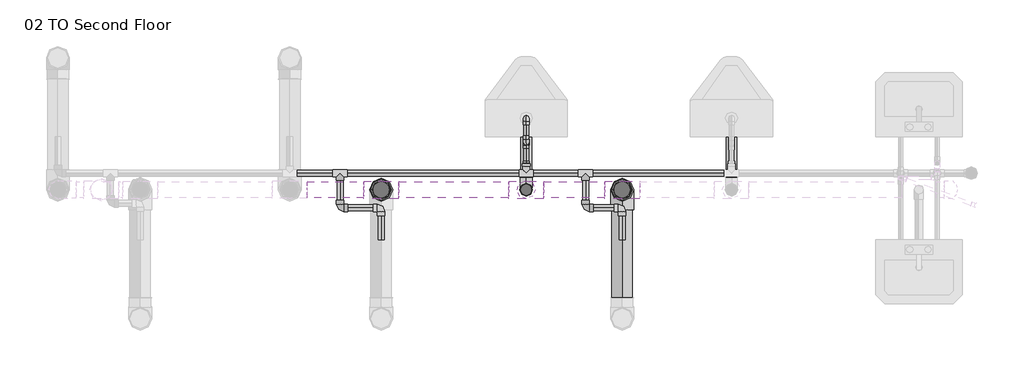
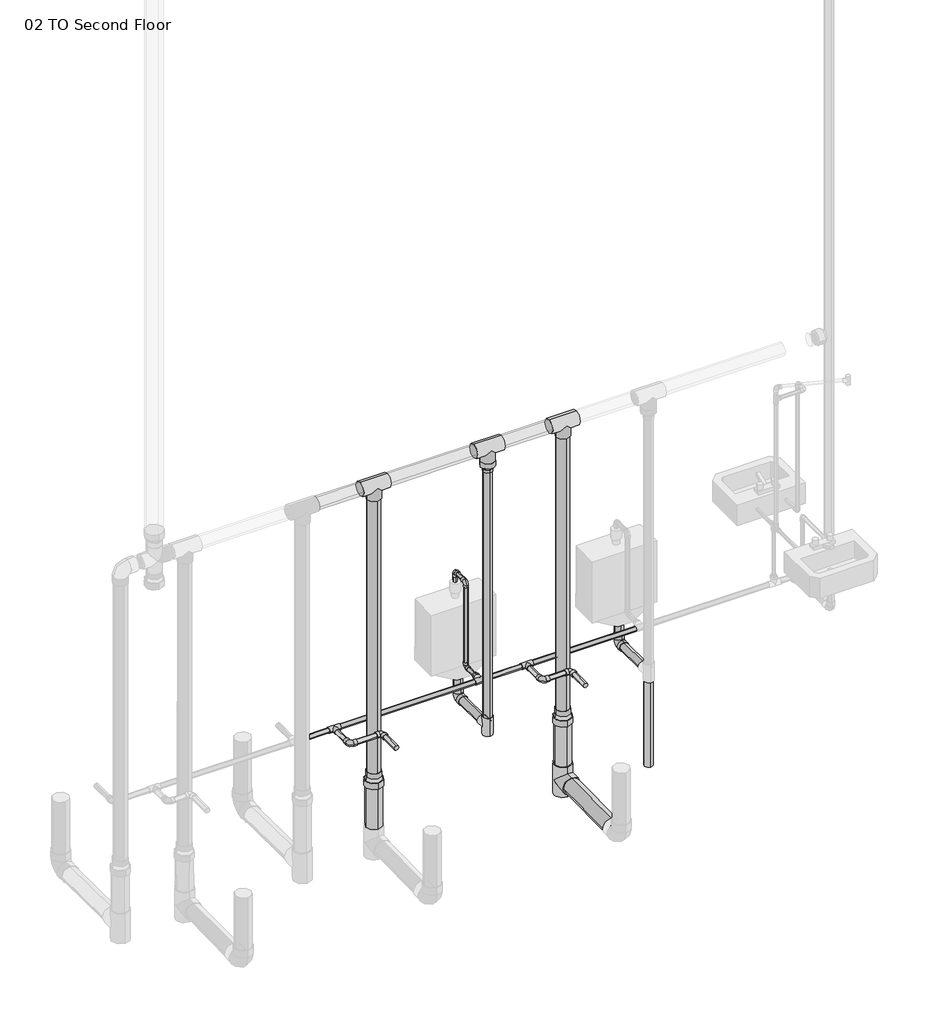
# One storey, part 2 of 3: 28 pipe segments, 21 pipe fittings.
"""IFC4 building model written with IfcOpenShell, lengths in millimetres."""

from ifc_helpers import new_model, si_unit, point, frame, frame_2d, origin, place, context, project, spatial, circle_curve, trimmed, segment, composite_curve, outline, extrude, transform, mapped, element, save
from components import elbow_pvc_sch_40_standard_39e3f0c3, elbow_pvc_sch_40_standard_517a5a8d, elbow_pvc_sch_40_standard_b266ab3f, reducer_pvc_sch_40_dwv_standard_464ee0c2, reducer_pvc_sch_40_dwv_standard_bc2808fd, reducer_pvc_sch_40_dwv_standard_0d64fc83, tee_pvc_sch_40_standard_9cddf13a, tee_pvc_sch_40_standard_b08d6211, tee_pvc_sch_40_standard_9261842d, tee_pvc_sch_40_standard_72b35c3b

model = new_model("IFC4")

# Units and contexts
model_context = context("Model", 3, world=origin())
ifc_project = project(units=[si_unit("LENGTHUNIT", "METRE", prefix="MILLI")], contexts=[model_context])

# Site, building, storey
site = spatial("IfcSite", under=ifc_project)
building = spatial("IfcBuilding", under=site)
storey = spatial("IfcBuildingStorey", under=building, Name="02 TO Second Floor", Elevation=4572.0)

# Pipe fittings
placement = place(None, origin())
elbow_pvc_sch_40_standard_shape = elbow_pvc_sch_40_standard_39e3f0c3(model_context)
element("IfcPipeFitting", 1, ObjectType="Elbow - PVC - Sch 40 : Standard", at=placement, inside=storey, context=model_context, shape_type="MappedRepresentation", body=[
    mapped(elbow_pvc_sch_40_standard_shape, transform((-14812.7542617, -4075.7109575, 4646.6125), x_axis=(0.0, 0.0, -1.0), y_axis=(0.0, -1.0, 0.0), z_axis=(-1.0, 0.0, 0.0))),
])
element("IfcPipeFitting", 2, ObjectType="Elbow - PVC - Sch 40 : Standard", at=placement, inside=storey, context=model_context, shape_type="MappedRepresentation", body=[
    mapped(elbow_pvc_sch_40_standard_shape, transform((-13669.7542617, -4075.7109575, 4649.7875), x_axis=(0.0, 0.0, -1.0), y_axis=(0.0, -1.0, 0.0), z_axis=(-1.0, 0.0, 0.0))),
])
elbow_pvc_sch_40_standard_2_shape = elbow_pvc_sch_40_standard_517a5a8d(model_context)
element("IfcPipeFitting", 3, ObjectType="Elbow - PVC - Sch 40 : Standard", at=placement, inside=storey, context=model_context, shape_type="MappedRepresentation", body=[
    mapped(elbow_pvc_sch_40_standard_2_shape, transform((-15620.0974824, -4541.2453325, 4927.6), x_axis=(0.0, 1.0, 0.0), y_axis=(-1.0, 0.0, 0.0), z_axis=(0.0, 0.0, 1.0))),
])
element("IfcPipeFitting", 4, ObjectType="Elbow - PVC - Sch 40 : Standard", at=placement, inside=storey, context=model_context, shape_type="MappedRepresentation", body=[
    mapped(elbow_pvc_sch_40_standard_2_shape, transform((-15848.6974824, -4541.2453325, 4927.6), x_axis=(0.0, -1.0, 0.0), y_axis=(1.0, 0.0, 0.0), z_axis=(0.0, 0.0, 1.0))),
])
element("IfcPipeFitting", 5, ObjectType="Elbow - PVC - Sch 40 : Standard", at=placement, inside=storey, context=model_context, shape_type="MappedRepresentation", body=[
    mapped(elbow_pvc_sch_40_standard_2_shape, transform((-14278.7262962, -4541.2453325, 4927.6), x_axis=(0.0, 1.0, 0.0), y_axis=(-1.0, 0.0, 0.0), z_axis=(0.0, 0.0, 1.0))),
])
element("IfcPipeFitting", 6, ObjectType="Elbow - PVC - Sch 40 : Standard", at=placement, inside=storey, context=model_context, shape_type="MappedRepresentation", body=[
    mapped(elbow_pvc_sch_40_standard_2_shape, transform((-14481.9262962, -4541.2453325, 4927.6), x_axis=(0.0, -1.0, 0.0), y_axis=(1.0, 0.0, 0.0), z_axis=(0.0, 0.0, 1.0))),
])
elbow_pvc_sch_40_standard_3_shape = elbow_pvc_sch_40_standard_b266ab3f(model_context)
element("IfcPipeFitting", 7, ObjectType="Elbow - PVC - Sch 40 : Standard", at=placement, inside=storey, context=model_context, shape_type="MappedRepresentation", body=[
    mapped(elbow_pvc_sch_40_standard_3_shape, transform((-14812.7542617, -4041.5797075, 5560.21875), x_axis=(0.0, 0.0, 1.0), y_axis=(0.0, -1.0, 0.0), z_axis=(1.0, 0.0, 0.0))),
])
element("IfcPipeFitting", 8, ObjectType="Elbow - PVC - Sch 40 : Standard", at=placement, inside=storey, context=model_context, shape_type="MappedRepresentation", body=[
    mapped(elbow_pvc_sch_40_standard_3_shape, transform((-14812.7542617, -4174.9297075, 5560.21875), x_axis=(0.0, -1.0, 0.0), y_axis=(0.0, 0.0, -1.0), z_axis=(1.0, 0.0, 0.0))),
])
element("IfcPipeFitting", 9, ObjectType="Elbow - PVC - Sch 40 : Standard", at=placement, inside=storey, context=model_context, shape_type="MappedRepresentation", body=[
    mapped(elbow_pvc_sch_40_standard_3_shape, transform((-14812.7542617, -4174.9297075, 4927.6), x_axis=(0.0, 0.0, -1.0), y_axis=(0.0, -1.0, 0.0), z_axis=(-1.0, 0.0, 0.0))),
])
reducer_pvc_sch_40_dwv_standard_shape = reducer_pvc_sch_40_dwv_standard_464ee0c2(model_context)
element("IfcPipeFitting", 10, ObjectType="Reducer - PVC - Sch 40 - DWV : Standard", at=placement, inside=storey, context=model_context, shape_type="MappedRepresentation", body=[
    mapped(reducer_pvc_sch_40_dwv_standard_shape, transform((-14812.7542617, -4439.7857603, 6638.925), x_axis=(0.0, 0.0, -1.0), y_axis=(1.0, 0.0, 0.0), z_axis=(0.0, -1.0, 0.0))),
])
reducer_pvc_sch_40_dwv_standard_2_shape = reducer_pvc_sch_40_dwv_standard_bc2808fd(model_context)
element("IfcPipeFitting", 11, ObjectType="Reducer - PVC - Sch 40 - DWV : Standard", at=placement, inside=storey, context=model_context, shape_type="MappedRepresentation", body=[
    mapped(reducer_pvc_sch_40_dwv_standard_2_shape, transform((-14278.7262962, -4439.7857603, 4593.7732164), x_axis=(0.0, 0.0, -1.0), y_axis=(-1.0, 0.0, 0.0), z_axis=(0.0, 1.0, 0.0))),
])
element("IfcPipeFitting", 12, ObjectType="Reducer - PVC - Sch 40 - DWV : Standard", at=placement, inside=storey, context=model_context, shape_type="MappedRepresentation", body=[
    mapped(reducer_pvc_sch_40_dwv_standard_2_shape, transform((-15620.0974824, -4439.7857603, 4593.7732164), x_axis=(0.0, 0.0, -1.0), y_axis=(-1.0, 0.0, 0.0), z_axis=(0.0, 1.0, 0.0))),
])
reducer_pvc_sch_40_dwv_standard_3_shape = reducer_pvc_sch_40_dwv_standard_0d64fc83(model_context)
element("IfcPipeFitting", 13, ObjectType="Reducer - PVC - Sch 40 - DWV : Standard", at=placement, inside=storey, context=model_context, shape_type="MappedRepresentation", body=[
    mapped(reducer_pvc_sch_40_dwv_standard_3_shape, transform((-14812.7542617, -4307.8701325, 4927.6), x_axis=(0.0, 1.0, 0.0), y_axis=(-1.0, 0.0, 0.0), z_axis=(0.0, 0.0, 1.0))),
])
tee_pvc_sch_40_standard_shape = tee_pvc_sch_40_standard_9cddf13a(model_context)
element("IfcPipeFitting", 14, ObjectType="Tee - PVC - Sch 40 : Standard", at=placement, inside=storey, context=model_context, shape_type="MappedRepresentation", body=[
    mapped(tee_pvc_sch_40_standard_shape, transform((-14278.7262962, -4439.7857603, 4071.4730164), x_axis=(0.0, 0.0, 1.0), y_axis=(0.0, 1.0, 0.0), z_axis=(-1.0, 0.0, 0.0))),
])
tee_pvc_sch_40_standard_2_shape = tee_pvc_sch_40_standard_b08d6211(model_context)
element("IfcPipeFitting", 15, ObjectType="Tee - PVC - Sch 40 : Standard", at=placement, inside=storey, context=model_context, shape_type="MappedRepresentation", body=[
    mapped(tee_pvc_sch_40_standard_2_shape, transform((-14812.7542617, -4439.7857603, 4650.4049459), x_axis=(0.0, 0.0, 1.0), y_axis=(0.0, -1.0, 0.0), z_axis=(1.0, 0.0, 0.0))),
])
tee_pvc_sch_40_standard_3_shape = tee_pvc_sch_40_standard_9261842d(model_context)
element("IfcPipeFitting", 16, ObjectType="Tee - PVC - Sch 40 : Standard", at=placement, inside=storey, context=model_context, shape_type="MappedRepresentation", body=[
    mapped(tee_pvc_sch_40_standard_3_shape, transform((-14278.7262962, -4439.7857603, 6735.7752), x_axis=(-1.0, 0.0, 0.0), y_axis=(0.0, 0.0, 1.0), z_axis=(0.0, 1.0, 0.0))),
])
element("IfcPipeFitting", 17, ObjectType="Tee - PVC - Sch 40 : Standard", at=placement, inside=storey, context=model_context, shape_type="MappedRepresentation", body=[
    mapped(tee_pvc_sch_40_standard_3_shape, transform((-14812.7542617, -4439.7857603, 6735.7752), x_axis=(-1.0, 0.0, 0.0), y_axis=(0.0, 0.0, 1.0), z_axis=(0.0, 1.0, 0.0))),
])
element("IfcPipeFitting", 18, ObjectType="Tee - PVC - Sch 40 : Standard", at=placement, inside=storey, context=model_context, shape_type="MappedRepresentation", body=[
    mapped(tee_pvc_sch_40_standard_3_shape, transform((-15620.0974824, -4439.7857603, 6735.7752), x_axis=(-1.0, 0.0, 0.0), y_axis=(0.0, 0.0, 1.0), z_axis=(0.0, 1.0, 0.0))),
])
tee_pvc_sch_40_standard_4_shape = tee_pvc_sch_40_standard_72b35c3b(model_context)
element("IfcPipeFitting", 19, ObjectType="Tee - PVC - Sch 40 : Standard", at=placement, inside=storey, context=model_context, shape_type="MappedRepresentation", body=[
    mapped(tee_pvc_sch_40_standard_4_shape, transform((-15848.6974824, -4347.5703325, 4927.6), x_axis=(-1.0, 0.0, 0.0), y_axis=(0.0, 1.0, 0.0), z_axis=(0.0, 0.0, -1.0))),
])
element("IfcPipeFitting", 20, ObjectType="Tee - PVC - Sch 40 : Standard", at=placement, inside=storey, context=model_context, shape_type="MappedRepresentation", body=[
    mapped(tee_pvc_sch_40_standard_4_shape, transform((-14481.9262962, -4347.5703325, 4927.6), x_axis=(-1.0, 0.0, 0.0), y_axis=(0.0, 1.0, 0.0), z_axis=(0.0, 0.0, -1.0))),
])
element("IfcPipeFitting", 21, ObjectType="Tee - PVC - Sch 40 : Standard", at=placement, inside=storey, context=model_context, shape_type="MappedRepresentation", body=[
    mapped(tee_pvc_sch_40_standard_4_shape, transform((-14812.7542617, -4347.5703325, 4927.6), x_axis=(-1.0, 0.0, 0.0), y_axis=(0.0, -1.0, 0.0), z_axis=(0.0, 0.0, 1.0))),
])

# Pipe segments
element("IfcPipeSegment", 22, ObjectType="Standard", at=placement, inside=storey, context=model_context, shape_type="SweptSolid", body=[
    extrude(outline(composite_curve([segment(trimmed(circle_curve(frame_2d((0.0, -57.15)), 57.15), [point((-57.15, -57.15))], [point((0.0, 0.0))], False, "CARTESIAN"), True, "CONTINUOUS"), segment(trimmed(circle_curve(frame_2d((0.0, -57.15)), 57.15), [point((0.0, 0.0))], [point((57.15, -57.15))], False, "CARTESIAN"), True, "CONTINUOUS"), segment(trimmed(circle_curve(frame_2d((0.0, -57.15)), 57.15), [point((57.15, -57.15))], [point((0.0, -114.3000001))], False, "CARTESIAN"), True, "CONTINUOUS"), segment(trimmed(circle_curve(frame_2d((0.0, -57.15)), 57.15), [point((0.0, -114.3000001))], [point((-57.15, -57.15))], False, "CARTESIAN"), True, "CONTINUOUS")], self_intersect=False)), frame((-14278.7262962, -5039.2392547, 4008.0756086), z_axis=(0.0, 0.999945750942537, 0.010416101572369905), x_axis=(1.0, 0.0, 0.0)), (0.0, 0.0, 1.0), 488.9563285),
])
element("IfcPipeSegment", 23, ObjectType="Standard", at=placement, inside=storey, context=model_context, shape_type="SweptSolid", body=[
    extrude(outline(composite_curve([segment(trimmed(circle_curve(frame_2d((-15620.0974824, -4439.7857603)), 57.15), [point((-15677.2474824, -4439.7857603))], [point((-15620.0974824, -4382.6357603))], False, "CARTESIAN"), True, "CONTINUOUS"), segment(trimmed(circle_curve(frame_2d((-15620.0974824, -4439.7857603)), 57.15), [point((-15620.0974824, -4382.6357603))], [point((-15562.9474824, -4439.7857603))], False, "CARTESIAN"), True, "CONTINUOUS"), segment(trimmed(circle_curve(frame_2d((-15620.0974824, -4439.7857603)), 57.15), [point((-15562.9474824, -4439.7857603))], [point((-15620.0974824, -4496.9357603))], False, "CARTESIAN"), True, "CONTINUOUS"), segment(trimmed(circle_curve(frame_2d((-15620.0974824, -4439.7857603)), 57.15), [point((-15620.0974824, -4496.9357603))], [point((-15677.2474824, -4439.7857603))], False, "CARTESIAN"), True, "CONTINUOUS")], self_intersect=False)), frame((0.0, 0.0, 4182.5980164), z_axis=(0.0, 0.0, 1.0), x_axis=(1.0, 0.0, 0.0)), (0.0, 0.0, 1.0), 304.8),
])
element("IfcPipeSegment", 24, ObjectType="Standard", at=placement, inside=storey, context=model_context, shape_type="SweptSolid", body=[
    extrude(outline(composite_curve([segment(trimmed(circle_curve(frame_2d((-14278.7262962, -4439.7857603)), 57.15), [point((-14335.8762962, -4439.7857603))], [point((-14278.7262962, -4382.6357603))], False, "CARTESIAN"), True, "CONTINUOUS"), segment(trimmed(circle_curve(frame_2d((-14278.7262962, -4439.7857603)), 57.15), [point((-14278.7262962, -4382.6357603))], [point((-14221.5762962, -4439.7857603))], False, "CARTESIAN"), True, "CONTINUOUS"), segment(trimmed(circle_curve(frame_2d((-14278.7262962, -4439.7857603)), 57.15), [point((-14221.5762962, -4439.7857603))], [point((-14278.7262962, -4496.9357603))], False, "CARTESIAN"), True, "CONTINUOUS"), segment(trimmed(circle_curve(frame_2d((-14278.7262962, -4439.7857603)), 57.15), [point((-14278.7262962, -4496.9357603))], [point((-14335.8762962, -4439.7857603))], False, "CARTESIAN"), True, "CONTINUOUS")], self_intersect=False)), frame((0.0, 0.0, 4182.5980164), z_axis=(0.0, 0.0, 1.0), x_axis=(1.0, 0.0, 0.0)), (0.0, 0.0, 1.0), 304.8),
])
element("IfcPipeSegment", 25, ObjectType="Standard", at=placement, inside=storey, context=model_context, shape_type="SweptSolid", body=[
    extrude(outline(composite_curve([segment(trimmed(circle_curve(frame_2d((-14812.7542617, -4075.7109575)), 30.1625), [point((-14782.5917617, -4075.7109575))], [point((-14812.7542617, -4105.8734575))], False, "CARTESIAN"), True, "CONTINUOUS"), segment(trimmed(circle_curve(frame_2d((-14812.7542617, -4075.7109575)), 30.1625), [point((-14812.7542617, -4105.8734575))], [point((-14842.9167617, -4075.7109575))], False, "CARTESIAN"), True, "CONTINUOUS"), segment(trimmed(circle_curve(frame_2d((-14812.7542617, -4075.7109575)), 30.1625), [point((-14842.9167617, -4075.7109575))], [point((-14812.7542617, -4045.5484575))], False, "CARTESIAN"), True, "CONTINUOUS"), segment(trimmed(circle_curve(frame_2d((-14812.7542617, -4075.7109575)), 30.1625), [point((-14812.7542617, -4045.5484575))], [point((-14782.5917617, -4075.7109575))], False, "CARTESIAN"), True, "CONTINUOUS")], self_intersect=False)), frame((0.0, 0.0, 4711.2720133), z_axis=(0.0, 0.0, 1.0), x_axis=(1.0, 0.0, 0.0)), (0.0, 0.0, 1.0), 109.9654867),
])
element("IfcPipeSegment", 26, ObjectType="Standard", at=placement, inside=storey, context=model_context, shape_type="SweptSolid", body=[
    extrude(outline(composite_curve([segment(trimmed(circle_curve(frame_2d((0.0, 30.1625001)), 30.1625), [point((-30.1625, 30.1625001))], [point((0.0, 60.3250001))], False, "CARTESIAN"), True, "CONTINUOUS"), segment(trimmed(circle_curve(frame_2d((0.0, 30.1625001)), 30.1625), [point((0.0, 60.3250001))], [point((30.1625, 30.1625001))], False, "CARTESIAN"), True, "CONTINUOUS"), segment(trimmed(circle_curve(frame_2d((0.0, 30.1625001)), 30.1625), [point((30.1625, 30.1625001))], [point((0.0, 0.0))], False, "CARTESIAN"), True, "CONTINUOUS"), segment(trimmed(circle_curve(frame_2d((0.0, 30.1625001)), 30.1625), [point((0.0, 0.0))], [point((-30.1625, 30.1625001))], False, "CARTESIAN"), True, "CONTINUOUS")], self_intersect=False)), frame((-14812.7542617, -4140.6811388, 4617.1251363), z_axis=(0.0, -0.9999457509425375, 0.010416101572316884), x_axis=(1.0, 0.0, 0.0)), (0.0, 0.0, 1.0), 232.7600412),
])
element("IfcPipeSegment", 27, ObjectType="Standard", at=placement, inside=storey, context=model_context, shape_type="SweptSolid", body=[
    extrude(outline(composite_curve([segment(trimmed(circle_curve(frame_2d((-13669.7542617, -4075.7109575)), 30.1625), [point((-13639.5917617, -4075.7109575))], [point((-13669.7542617, -4105.8734575))], False, "CARTESIAN"), True, "CONTINUOUS"), segment(trimmed(circle_curve(frame_2d((-13669.7542617, -4075.7109575)), 30.1625), [point((-13669.7542617, -4105.8734575))], [point((-13699.9167617, -4075.7109575))], False, "CARTESIAN"), True, "CONTINUOUS"), segment(trimmed(circle_curve(frame_2d((-13669.7542617, -4075.7109575)), 30.1625), [point((-13699.9167617, -4075.7109575))], [point((-13669.7542617, -4045.5484575))], False, "CARTESIAN"), True, "CONTINUOUS"), segment(trimmed(circle_curve(frame_2d((-13669.7542617, -4075.7109575)), 30.1625), [point((-13669.7542617, -4045.5484575))], [point((-13639.5917617, -4075.7109575))], False, "CARTESIAN"), True, "CONTINUOUS")], self_intersect=False)), frame((0.0, 0.0, 4714.4470133), z_axis=(0.0, 0.0, 1.0), x_axis=(1.0, 0.0, 0.0)), (0.0, 0.0, 1.0), 106.7904867),
])
element("IfcPipeSegment", 28, ObjectType="Standard", at=placement, inside=storey, context=model_context, shape_type="SweptSolid", body=[
    extrude(outline(composite_curve([segment(trimmed(circle_curve(frame_2d((0.0, 30.1625001)), 30.1625), [point((-30.1625, 30.1625001))], [point((0.0, 60.3250001))], False, "CARTESIAN"), True, "CONTINUOUS"), segment(trimmed(circle_curve(frame_2d((0.0, 30.1625001)), 30.1625), [point((0.0, 60.3250001))], [point((30.1625, 30.1625001))], False, "CARTESIAN"), True, "CONTINUOUS"), segment(trimmed(circle_curve(frame_2d((0.0, 30.1625001)), 30.1625), [point((30.1625, 30.1625001))], [point((0.0, 0.0))], False, "CARTESIAN"), True, "CONTINUOUS"), segment(trimmed(circle_curve(frame_2d((0.0, 30.1625001)), 30.1625), [point((0.0, 0.0))], [point((-30.1625, 30.1625001))], False, "CARTESIAN"), True, "CONTINUOUS")], self_intersect=False)), frame((-13669.7542617, -4140.6811388, 4620.3001363), z_axis=(0.0, -0.9999457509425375, 0.010416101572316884), x_axis=(1.0, 0.0, 0.0)), (0.0, 0.0, 1.0), 232.7600412),
])
element("IfcPipeSegment", 29, ObjectType="Standard", at=placement, inside=storey, context=model_context, shape_type="SweptSolid", body=[
    extrude(outline(composite_curve([segment(trimmed(circle_curve(frame_2d((-13669.7542617, -4439.7857603)), 30.1625), [point((-13699.9167617, -4439.7857603))], [point((-13669.7542617, -4409.6232603))], False, "CARTESIAN"), True, "CONTINUOUS"), segment(trimmed(circle_curve(frame_2d((-13669.7542617, -4439.7857603)), 30.1625), [point((-13669.7542617, -4409.6232603))], [point((-13639.5917617, -4439.7857603))], False, "CARTESIAN"), True, "CONTINUOUS"), segment(trimmed(circle_curve(frame_2d((-13669.7542617, -4439.7857603)), 30.1625), [point((-13639.5917617, -4439.7857603))], [point((-13669.7542617, -4469.9482603))], False, "CARTESIAN"), True, "CONTINUOUS"), segment(trimmed(circle_curve(frame_2d((-13669.7542617, -4439.7857603)), 30.1625), [point((-13669.7542617, -4469.9482603))], [point((-13699.9167617, -4439.7857603))], False, "CARTESIAN"), True, "CONTINUOUS")], self_intersect=False)), frame((0.0, 0.0, 3949.4306513), z_axis=(0.0, 0.0, 1.0), x_axis=(1.0, 0.0, 0.0)), (0.0, 0.0, 1.0), 637.4742946),
])
element("IfcPipeSegment", 30, ObjectType="Standard", at=placement, inside=storey, context=model_context, shape_type="SweptSolid", body=[
    extrude(outline(composite_curve([segment(trimmed(circle_curve(frame_2d((-14812.7542617, -4439.7857603)), 30.1625), [point((-14782.5917617, -4439.7857603))], [point((-14812.7542617, -4469.9482603))], False, "CARTESIAN"), True, "CONTINUOUS"), segment(trimmed(circle_curve(frame_2d((-14812.7542617, -4439.7857603)), 30.1625), [point((-14812.7542617, -4469.9482603))], [point((-14842.9167617, -4439.7857603))], False, "CARTESIAN"), True, "CONTINUOUS"), segment(trimmed(circle_curve(frame_2d((-14812.7542617, -4439.7857603)), 30.1625), [point((-14842.9167617, -4439.7857603))], [point((-14812.7542617, -4409.6232603))], False, "CARTESIAN"), True, "CONTINUOUS"), segment(trimmed(circle_curve(frame_2d((-14812.7542617, -4439.7857603)), 30.1625), [point((-14812.7542617, -4409.6232603))], [point((-14782.5917617, -4439.7857603))], False, "CARTESIAN"), True, "CONTINUOUS")], self_intersect=False)), frame((0.0, 0.0, 4717.0799459), z_axis=(0.0, 0.0, 1.0), x_axis=(1.0, 0.0, 0.0)), (0.0, 0.0, 1.0), 1842.4700541),
])
element("IfcPipeSegment", 31, ObjectType="Standard", at=placement, inside=storey, context=model_context, shape_type="SweptSolid", body=[
    extrude(outline(composite_curve([segment(trimmed(circle_curve(frame_2d((-15620.0974824, -4439.7857603)), 44.45), [point((-15575.6474824, -4439.7857603))], [point((-15620.0974824, -4484.2357603))], False, "CARTESIAN"), True, "CONTINUOUS"), segment(trimmed(circle_curve(frame_2d((-15620.0974824, -4439.7857603)), 44.45), [point((-15620.0974824, -4484.2357603))], [point((-15664.5474824, -4439.7857603))], False, "CARTESIAN"), True, "CONTINUOUS"), segment(trimmed(circle_curve(frame_2d((-15620.0974824, -4439.7857603)), 44.45), [point((-15664.5474824, -4439.7857603))], [point((-15620.0974824, -4395.3357603))], False, "CARTESIAN"), True, "CONTINUOUS"), segment(trimmed(circle_curve(frame_2d((-15620.0974824, -4439.7857603)), 44.45), [point((-15620.0974824, -4395.3357603))], [point((-15575.6474824, -4439.7857603))], False, "CARTESIAN"), True, "CONTINUOUS")], self_intersect=False)), frame((0.0, 0.0, 4593.7732164), z_axis=(0.0, 0.0, 1.0), x_axis=(1.0, 0.0, 0.0)), (0.0, 0.0, 1.0), 2045.1517836),
])
element("IfcPipeSegment", 32, ObjectType="Standard", at=placement, inside=storey, context=model_context, shape_type="SweptSolid", body=[
    extrude(outline(composite_curve([segment(trimmed(circle_curve(frame_2d((-14278.7262962, -4439.7857603)), 44.45), [point((-14234.2762962, -4439.7857603))], [point((-14278.7262962, -4484.2357603))], False, "CARTESIAN"), True, "CONTINUOUS"), segment(trimmed(circle_curve(frame_2d((-14278.7262962, -4439.7857603)), 44.45), [point((-14278.7262962, -4484.2357603))], [point((-14323.1762962, -4439.7857603))], False, "CARTESIAN"), True, "CONTINUOUS"), segment(trimmed(circle_curve(frame_2d((-14278.7262962, -4439.7857603)), 44.45), [point((-14323.1762962, -4439.7857603))], [point((-14278.7262962, -4395.3357603))], False, "CARTESIAN"), True, "CONTINUOUS"), segment(trimmed(circle_curve(frame_2d((-14278.7262962, -4439.7857603)), 44.45), [point((-14278.7262962, -4395.3357603))], [point((-14234.2762962, -4439.7857603))], False, "CARTESIAN"), True, "CONTINUOUS")], self_intersect=False)), frame((0.0, 0.0, 4593.7732164), z_axis=(0.0, 0.0, 1.0), x_axis=(1.0, 0.0, 0.0)), (0.0, 0.0, 1.0), 2045.1517836),
])
element("IfcPipeSegment", 33, ObjectType="Standard", at=placement, inside=storey, context=model_context, shape_type="SweptSolid", body=[
    extrude(outline(composite_curve([segment(trimmed(circle_curve(frame_2d((-4439.7857603, 6735.7752)), 44.45), [point((-4484.2357603, 6735.7752))], [point((-4439.7857603, 6780.2252))], False, "CARTESIAN"), True, "CONTINUOUS"), segment(trimmed(circle_curve(frame_2d((-4439.7857603, 6735.7752)), 44.45), [point((-4439.7857603, 6780.2252))], [point((-4395.3357603, 6735.7752))], False, "CARTESIAN"), True, "CONTINUOUS"), segment(trimmed(circle_curve(frame_2d((-4439.7857603, 6735.7752)), 44.45), [point((-4395.3357603, 6735.7752))], [point((-4439.7857603, 6691.3252))], False, "CARTESIAN"), True, "CONTINUOUS"), segment(trimmed(circle_curve(frame_2d((-4439.7857603, 6735.7752)), 44.45), [point((-4439.7857603, 6691.3252))], [point((-4484.2357603, 6735.7752))], False, "CARTESIAN"), True, "CONTINUOUS")], self_intersect=False)), frame((-15523.2472824, 0.0, 0.0), z_axis=(1.0, 0.0, 0.0), x_axis=(0.0, 1.0, 0.0)), (0.0, 0.0, 1.0), 613.6428207),
])
element("IfcPipeSegment", 34, ObjectType="Standard", at=placement, inside=storey, context=model_context, shape_type="SweptSolid", body=[
    extrude(outline(composite_curve([segment(trimmed(circle_curve(frame_2d((-4439.7857603, 6735.7752)), 44.45), [point((-4484.2357603, 6735.7752))], [point((-4439.7857603, 6780.2252))], False, "CARTESIAN"), True, "CONTINUOUS"), segment(trimmed(circle_curve(frame_2d((-4439.7857603, 6735.7752)), 44.45), [point((-4439.7857603, 6780.2252))], [point((-4395.3357603, 6735.7752))], False, "CARTESIAN"), True, "CONTINUOUS"), segment(trimmed(circle_curve(frame_2d((-4439.7857603, 6735.7752)), 44.45), [point((-4395.3357603, 6735.7752))], [point((-4439.7857603, 6691.3252))], False, "CARTESIAN"), True, "CONTINUOUS"), segment(trimmed(circle_curve(frame_2d((-4439.7857603, 6735.7752)), 44.45), [point((-4439.7857603, 6691.3252))], [point((-4484.2357603, 6735.7752))], False, "CARTESIAN"), True, "CONTINUOUS")], self_intersect=False)), frame((-14715.9040617, 0.0, 0.0), z_axis=(1.0, 0.0, 0.0), x_axis=(0.0, 1.0, 0.0)), (0.0, 0.0, 1.0), 340.3275655),
])
element("IfcPipeSegment", 35, ObjectType="Standard", at=placement, inside=storey, context=model_context, shape_type="SweptSolid", body=[
    extrude(outline(composite_curve([segment(trimmed(circle_curve(frame_2d((-4439.7857603, 6735.7752)), 44.45), [point((-4395.3357603, 6735.7752))], [point((-4439.7857603, 6691.3252))], False, "CARTESIAN"), True, "CONTINUOUS"), segment(trimmed(circle_curve(frame_2d((-4439.7857603, 6735.7752)), 44.45), [point((-4439.7857603, 6691.3252))], [point((-4484.2357603, 6735.7752))], False, "CARTESIAN"), True, "CONTINUOUS"), segment(trimmed(circle_curve(frame_2d((-4439.7857603, 6735.7752)), 44.45), [point((-4484.2357603, 6735.7752))], [point((-4439.7857603, 6780.2252))], False, "CARTESIAN"), True, "CONTINUOUS"), segment(trimmed(circle_curve(frame_2d((-4439.7857603, 6735.7752)), 44.45), [point((-4439.7857603, 6780.2252))], [point((-4395.3357603, 6735.7752))], False, "CARTESIAN"), True, "CONTINUOUS")], self_intersect=False)), frame((-16031.2472824, 0.0, 0.0), z_axis=(1.0, 0.0, 0.0), x_axis=(0.0, 1.0, 0.0)), (0.0, 0.0, 1.0), 314.2996),
])
element("IfcPipeSegment", 36, ObjectType="Standard", at=placement, inside=storey, context=model_context, shape_type="SweptSolid", body=[
    extrude(outline(composite_curve([segment(trimmed(circle_curve(frame_2d((4927.6, -15620.0974824)), 16.66875), [point((4927.6, -15603.4287324))], [point((4944.26875, -15620.0974824))], False, "CARTESIAN"), True, "CONTINUOUS"), segment(trimmed(circle_curve(frame_2d((4927.6, -15620.0974824)), 16.66875), [point((4944.26875, -15620.0974824))], [point((4927.6, -15636.7662324))], False, "CARTESIAN"), True, "CONTINUOUS"), segment(trimmed(circle_curve(frame_2d((4927.6, -15620.0974824)), 16.66875), [point((4927.6, -15636.7662324))], [point((4910.93125, -15620.0974824))], False, "CARTESIAN"), True, "CONTINUOUS"), segment(trimmed(circle_curve(frame_2d((4927.6, -15620.0974824)), 16.66875), [point((4910.93125, -15620.0974824))], [point((4927.6, -15603.4287324))], False, "CARTESIAN"), True, "CONTINUOUS")], self_intersect=False)), frame((0.0, -4719.0453325, 0.0), z_axis=(0.0, 1.0, 0.0), x_axis=(0.0, 0.0, 1.0)), (0.0, 0.0, 1.0), 134.53745),
])
element("IfcPipeSegment", 37, ObjectType="Standard", at=placement, inside=storey, context=model_context, shape_type="SweptSolid", body=[
    extrude(outline(composite_curve([segment(trimmed(circle_curve(frame_2d((-4541.2453325, 4927.6)), 16.66875), [point((-4524.5765825, 4927.6))], [point((-4541.2453325, 4910.93125))], False, "CARTESIAN"), True, "CONTINUOUS"), segment(trimmed(circle_curve(frame_2d((-4541.2453325, 4927.6)), 16.66875), [point((-4541.2453325, 4910.93125))], [point((-4557.9140825, 4927.6))], False, "CARTESIAN"), True, "CONTINUOUS"), segment(trimmed(circle_curve(frame_2d((-4541.2453325, 4927.6)), 16.66875), [point((-4557.9140825, 4927.6))], [point((-4541.2453325, 4944.26875))], False, "CARTESIAN"), True, "CONTINUOUS"), segment(trimmed(circle_curve(frame_2d((-4541.2453325, 4927.6)), 16.66875), [point((-4541.2453325, 4944.26875))], [point((-4524.5765825, 4927.6))], False, "CARTESIAN"), True, "CONTINUOUS")], self_intersect=False)), frame((-15805.4349324, 0.0, 0.0), z_axis=(1.0, 0.0, 0.0), x_axis=(0.0, 1.0, 0.0)), (0.0, 0.0, 1.0), 142.0749),
])
element("IfcPipeSegment", 38, ObjectType="Standard", at=placement, inside=storey, context=model_context, shape_type="SweptSolid", body=[
    extrude(outline(composite_curve([segment(trimmed(circle_curve(frame_2d((4927.6, -15848.6974824)), 16.66875), [point((4927.6, -15832.0287324))], [point((4944.26875, -15848.6974824))], False, "CARTESIAN"), True, "CONTINUOUS"), segment(trimmed(circle_curve(frame_2d((4927.6, -15848.6974824)), 16.66875), [point((4944.26875, -15848.6974824))], [point((4927.6, -15865.3662324))], False, "CARTESIAN"), True, "CONTINUOUS"), segment(trimmed(circle_curve(frame_2d((4927.6, -15848.6974824)), 16.66875), [point((4927.6, -15865.3662324))], [point((4910.93125, -15848.6974824))], False, "CARTESIAN"), True, "CONTINUOUS"), segment(trimmed(circle_curve(frame_2d((4927.6, -15848.6974824)), 16.66875), [point((4910.93125, -15848.6974824))], [point((4927.6, -15832.0287324))], False, "CARTESIAN"), True, "CONTINUOUS")], self_intersect=False)), frame((0.0, -4497.9827825, 0.0), z_axis=(0.0, 1.0, 0.0), x_axis=(0.0, 0.0, 1.0)), (0.0, 0.0, 1.0), 110.71225),
])
element("IfcPipeSegment", 39, ObjectType="Standard", at=placement, inside=storey, context=model_context, shape_type="SweptSolid", body=[
    extrude(outline(composite_curve([segment(trimmed(circle_curve(frame_2d((-4347.5703325, 4927.6)), 16.66875), [point((-4364.2390825, 4927.6))], [point((-4347.5703325, 4944.26875))], False, "CARTESIAN"), True, "CONTINUOUS"), segment(trimmed(circle_curve(frame_2d((-4347.5703325, 4927.6)), 16.66875), [point((-4347.5703325, 4944.26875))], [point((-4330.9015825, 4927.6))], False, "CARTESIAN"), True, "CONTINUOUS"), segment(trimmed(circle_curve(frame_2d((-4347.5703325, 4927.6)), 16.66875), [point((-4330.9015825, 4927.6))], [point((-4347.5703325, 4910.93125))], False, "CARTESIAN"), True, "CONTINUOUS"), segment(trimmed(circle_curve(frame_2d((-4347.5703325, 4927.6)), 16.66875), [point((-4347.5703325, 4910.93125))], [point((-4364.2390825, 4927.6))], False, "CARTESIAN"), True, "CONTINUOUS")], self_intersect=False)), frame((-16088.3972824, 0.0, 0.0), z_axis=(1.0, 0.0, 0.0), x_axis=(0.0, 1.0, 0.0)), (0.0, 0.0, 1.0), 199.9996),
])
element("IfcPipeSegment", 40, ObjectType="Standard", at=placement, inside=storey, context=model_context, shape_type="SweptSolid", body=[
    extrude(outline(composite_curve([segment(trimmed(circle_curve(frame_2d((4927.6, -14278.7262962)), 16.66875), [point((4927.6, -14262.0575462))], [point((4944.26875, -14278.7262962))], False, "CARTESIAN"), True, "CONTINUOUS"), segment(trimmed(circle_curve(frame_2d((4927.6, -14278.7262962)), 16.66875), [point((4944.26875, -14278.7262962))], [point((4927.6, -14295.3950462))], False, "CARTESIAN"), True, "CONTINUOUS"), segment(trimmed(circle_curve(frame_2d((4927.6, -14278.7262962)), 16.66875), [point((4927.6, -14295.3950462))], [point((4910.93125, -14278.7262962))], False, "CARTESIAN"), True, "CONTINUOUS"), segment(trimmed(circle_curve(frame_2d((4927.6, -14278.7262962)), 16.66875), [point((4910.93125, -14278.7262962))], [point((4927.6, -14262.0575462))], False, "CARTESIAN"), True, "CONTINUOUS")], self_intersect=False)), frame((0.0, -4719.0453325, 0.0), z_axis=(0.0, 1.0, 0.0), x_axis=(0.0, 0.0, 1.0)), (0.0, 0.0, 1.0), 134.53745),
])
element("IfcPipeSegment", 41, ObjectType="Standard", at=placement, inside=storey, context=model_context, shape_type="SweptSolid", body=[
    extrude(outline(composite_curve([segment(trimmed(circle_curve(frame_2d((-4541.2453325, 4927.6)), 16.66875), [point((-4524.5765825, 4927.6))], [point((-4541.2453325, 4910.93125))], False, "CARTESIAN"), True, "CONTINUOUS"), segment(trimmed(circle_curve(frame_2d((-4541.2453325, 4927.6)), 16.66875), [point((-4541.2453325, 4910.93125))], [point((-4557.9140825, 4927.6))], False, "CARTESIAN"), True, "CONTINUOUS"), segment(trimmed(circle_curve(frame_2d((-4541.2453325, 4927.6)), 16.66875), [point((-4557.9140825, 4927.6))], [point((-4541.2453325, 4944.26875))], False, "CARTESIAN"), True, "CONTINUOUS"), segment(trimmed(circle_curve(frame_2d((-4541.2453325, 4927.6)), 16.66875), [point((-4541.2453325, 4944.26875))], [point((-4524.5765825, 4927.6))], False, "CARTESIAN"), True, "CONTINUOUS")], self_intersect=False)), frame((-14438.6637462, 0.0, 0.0), z_axis=(1.0, 0.0, 0.0), x_axis=(0.0, 1.0, 0.0)), (0.0, 0.0, 1.0), 116.6749),
])
element("IfcPipeSegment", 42, ObjectType="Standard", at=placement, inside=storey, context=model_context, shape_type="SweptSolid", body=[
    extrude(outline(composite_curve([segment(trimmed(circle_curve(frame_2d((4927.6, -14481.9262962)), 16.66875), [point((4927.6, -14465.2575462))], [point((4944.26875, -14481.9262962))], False, "CARTESIAN"), True, "CONTINUOUS"), segment(trimmed(circle_curve(frame_2d((4927.6, -14481.9262962)), 16.66875), [point((4944.26875, -14481.9262962))], [point((4927.6, -14498.5950462))], False, "CARTESIAN"), True, "CONTINUOUS"), segment(trimmed(circle_curve(frame_2d((4927.6, -14481.9262962)), 16.66875), [point((4927.6, -14498.5950462))], [point((4910.93125, -14481.9262962))], False, "CARTESIAN"), True, "CONTINUOUS"), segment(trimmed(circle_curve(frame_2d((4927.6, -14481.9262962)), 16.66875), [point((4910.93125, -14481.9262962))], [point((4927.6, -14465.2575462))], False, "CARTESIAN"), True, "CONTINUOUS")], self_intersect=False)), frame((0.0, -4497.9827825, 0.0), z_axis=(0.0, 1.0, 0.0), x_axis=(0.0, 0.0, 1.0)), (0.0, 0.0, 1.0), 110.71225),
])
element("IfcPipeSegment", 43, ObjectType="Standard", at=placement, inside=storey, context=model_context, shape_type="SweptSolid", body=[
    extrude(outline(composite_curve([segment(trimmed(circle_curve(frame_2d((-14812.7542617, -4041.5797075)), 13.49375), [point((-14826.2480117, -4041.5797075))], [point((-14812.7542617, -4028.0859575))], False, "CARTESIAN"), True, "CONTINUOUS"), segment(trimmed(circle_curve(frame_2d((-14812.7542617, -4041.5797075)), 13.49375), [point((-14812.7542617, -4028.0859575))], [point((-14799.2605117, -4041.5797075))], False, "CARTESIAN"), True, "CONTINUOUS"), segment(trimmed(circle_curve(frame_2d((-14812.7542617, -4041.5797075)), 13.49375), [point((-14799.2605117, -4041.5797075))], [point((-14812.7542617, -4055.0734575))], False, "CARTESIAN"), True, "CONTINUOUS"), segment(trimmed(circle_curve(frame_2d((-14812.7542617, -4041.5797075)), 13.49375), [point((-14812.7542617, -4055.0734575))], [point((-14826.2480117, -4041.5797075))], False, "CARTESIAN"), True, "CONTINUOUS")], self_intersect=False)), frame((0.0, 0.0, 5484.01875), z_axis=(0.0, 0.0, 1.0), x_axis=(1.0, 0.0, 0.0)), (0.0, 0.0, 1.0), 40.87495),
])
element("IfcPipeSegment", 44, ObjectType="Standard", at=placement, inside=storey, context=model_context, shape_type="SweptSolid", body=[
    extrude(outline(composite_curve([segment(trimmed(circle_curve(frame_2d((5560.21875, -14812.7542617)), 13.49375), [point((5560.21875, -14826.2480117))], [point((5546.725, -14812.7542617))], False, "CARTESIAN"), True, "CONTINUOUS"), segment(trimmed(circle_curve(frame_2d((5560.21875, -14812.7542617)), 13.49375), [point((5546.725, -14812.7542617))], [point((5560.21875, -14799.2605117))], False, "CARTESIAN"), True, "CONTINUOUS"), segment(trimmed(circle_curve(frame_2d((5560.21875, -14812.7542617)), 13.49375), [point((5560.21875, -14799.2605117))], [point((5573.7125, -14812.7542617))], False, "CARTESIAN"), True, "CONTINUOUS"), segment(trimmed(circle_curve(frame_2d((5560.21875, -14812.7542617)), 13.49375), [point((5573.7125, -14812.7542617))], [point((5560.21875, -14826.2480117))], False, "CARTESIAN"), True, "CONTINUOUS")], self_intersect=False)), frame((0.0, -4139.6046575, 0.0), z_axis=(0.0, 1.0, 0.0), x_axis=(0.0, 0.0, 1.0)), (0.0, 0.0, 1.0), 62.6999),
])
element("IfcPipeSegment", 45, ObjectType="Standard", at=placement, inside=storey, context=model_context, shape_type="SweptSolid", body=[
    extrude(outline(composite_curve([segment(trimmed(circle_curve(frame_2d((-14812.7542617, -4174.9297075)), 13.49375), [point((-14799.2605117, -4174.9297075))], [point((-14812.7542617, -4188.4234575))], False, "CARTESIAN"), True, "CONTINUOUS"), segment(trimmed(circle_curve(frame_2d((-14812.7542617, -4174.9297075)), 13.49375), [point((-14812.7542617, -4188.4234575))], [point((-14826.2480117, -4174.9297075))], False, "CARTESIAN"), True, "CONTINUOUS"), segment(trimmed(circle_curve(frame_2d((-14812.7542617, -4174.9297075)), 13.49375), [point((-14826.2480117, -4174.9297075))], [point((-14812.7542617, -4161.4359575))], False, "CARTESIAN"), True, "CONTINUOUS"), segment(trimmed(circle_curve(frame_2d((-14812.7542617, -4174.9297075)), 13.49375), [point((-14812.7542617, -4161.4359575))], [point((-14799.2605117, -4174.9297075))], False, "CARTESIAN"), True, "CONTINUOUS")], self_intersect=False)), frame((0.0, 0.0, 4962.92505), z_axis=(0.0, 0.0, 1.0), x_axis=(1.0, 0.0, 0.0)), (0.0, 0.0, 1.0), 561.96865),
])
element("IfcPipeSegment", 46, ObjectType="Standard", at=placement, inside=storey, context=model_context, shape_type="SweptSolid", body=[
    extrude(outline(composite_curve([segment(trimmed(circle_curve(frame_2d((4927.6, -14812.7542617)), 13.49375), [point((4927.6, -14826.2480117))], [point((4914.10625, -14812.7542617))], False, "CARTESIAN"), True, "CONTINUOUS"), segment(trimmed(circle_curve(frame_2d((4927.6, -14812.7542617)), 13.49375), [point((4914.10625, -14812.7542617))], [point((4927.6, -14799.2605117))], False, "CARTESIAN"), True, "CONTINUOUS"), segment(trimmed(circle_curve(frame_2d((4927.6, -14812.7542617)), 13.49375), [point((4927.6, -14799.2605117))], [point((4941.09375, -14812.7542617))], False, "CARTESIAN"), True, "CONTINUOUS"), segment(trimmed(circle_curve(frame_2d((4927.6, -14812.7542617)), 13.49375), [point((4941.09375, -14812.7542617))], [point((4927.6, -14826.2480117))], False, "CARTESIAN"), True, "CONTINUOUS")], self_intersect=False)), frame((0.0, -4280.7675388, 0.0), z_axis=(0.0, 1.0, 0.0), x_axis=(0.0, 0.0, 1.0)), (0.0, 0.0, 1.0), 70.5127813),
])
element("IfcPipeSegment", 47, ObjectType="Standard", at=placement, inside=storey, context=model_context, shape_type="SweptSolid", body=[
    extrude(outline(composite_curve([segment(trimmed(circle_curve(frame_2d((-4347.5703325, 4927.6)), 16.66875), [point((-4364.2390825, 4927.6))], [point((-4347.5703325, 4944.26875))], False, "CARTESIAN"), True, "CONTINUOUS"), segment(trimmed(circle_curve(frame_2d((-4347.5703325, 4927.6)), 16.66875), [point((-4347.5703325, 4944.26875))], [point((-4330.9015825, 4927.6))], False, "CARTESIAN"), True, "CONTINUOUS"), segment(trimmed(circle_curve(frame_2d((-4347.5703325, 4927.6)), 16.66875), [point((-4330.9015825, 4927.6))], [point((-4347.5703325, 4910.93125))], False, "CARTESIAN"), True, "CONTINUOUS"), segment(trimmed(circle_curve(frame_2d((-4347.5703325, 4927.6)), 16.66875), [point((-4347.5703325, 4910.93125))], [point((-4364.2390825, 4927.6))], False, "CARTESIAN"), True, "CONTINUOUS")], self_intersect=False)), frame((-14773.0540617, 0.0, 0.0), z_axis=(1.0, 0.0, 0.0), x_axis=(0.0, 1.0, 0.0)), (0.0, 0.0, 1.0), 251.4275655),
])
element("IfcPipeSegment", 48, ObjectType="Standard", at=placement, inside=storey, context=model_context, shape_type="SweptSolid", body=[
    extrude(outline(composite_curve([segment(trimmed(circle_curve(frame_2d((-4347.5703325, 4927.6)), 16.66875), [point((-4364.2390825, 4927.6))], [point((-4347.5703325, 4944.26875))], False, "CARTESIAN"), True, "CONTINUOUS"), segment(trimmed(circle_curve(frame_2d((-4347.5703325, 4927.6)), 16.66875), [point((-4347.5703325, 4944.26875))], [point((-4330.9015825, 4927.6))], False, "CARTESIAN"), True, "CONTINUOUS"), segment(trimmed(circle_curve(frame_2d((-4347.5703325, 4927.6)), 16.66875), [point((-4330.9015825, 4927.6))], [point((-4347.5703325, 4910.93125))], False, "CARTESIAN"), True, "CONTINUOUS"), segment(trimmed(circle_curve(frame_2d((-4347.5703325, 4927.6)), 16.66875), [point((-4347.5703325, 4910.93125))], [point((-4364.2390825, 4927.6))], False, "CARTESIAN"), True, "CONTINUOUS")], self_intersect=False)), frame((-15808.9972824, 0.0, 0.0), z_axis=(1.0, 0.0, 0.0), x_axis=(0.0, 1.0, 0.0)), (0.0, 0.0, 1.0), 956.5428207),
])
element("IfcPipeSegment", 49, ObjectType="Standard", at=placement, inside=storey, context=model_context, shape_type="SweptSolid", body=[
    extrude(outline(composite_curve([segment(trimmed(circle_curve(frame_2d((-4347.5703325, 4927.6)), 16.66875), [point((-4364.2390825, 4927.6))], [point((-4347.5703325, 4944.26875))], False, "CARTESIAN"), True, "CONTINUOUS"), segment(trimmed(circle_curve(frame_2d((-4347.5703325, 4927.6)), 16.66875), [point((-4347.5703325, 4944.26875))], [point((-4330.9015825, 4927.6))], False, "CARTESIAN"), True, "CONTINUOUS"), segment(trimmed(circle_curve(frame_2d((-4347.5703325, 4927.6)), 16.66875), [point((-4330.9015825, 4927.6))], [point((-4347.5703325, 4910.93125))], False, "CARTESIAN"), True, "CONTINUOUS"), segment(trimmed(circle_curve(frame_2d((-4347.5703325, 4927.6)), 16.66875), [point((-4347.5703325, 4910.93125))], [point((-4364.2390825, 4927.6))], False, "CARTESIAN"), True, "CONTINUOUS")], self_intersect=False)), frame((-14442.2260962, 0.0, 0.0), z_axis=(1.0, 0.0, 0.0), x_axis=(0.0, 1.0, 0.0)), (0.0, 0.0, 1.0), 732.7716345),
])

save(model, "model.ifc")
